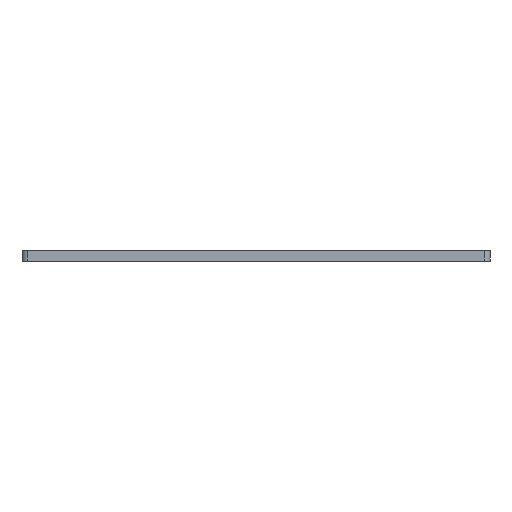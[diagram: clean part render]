
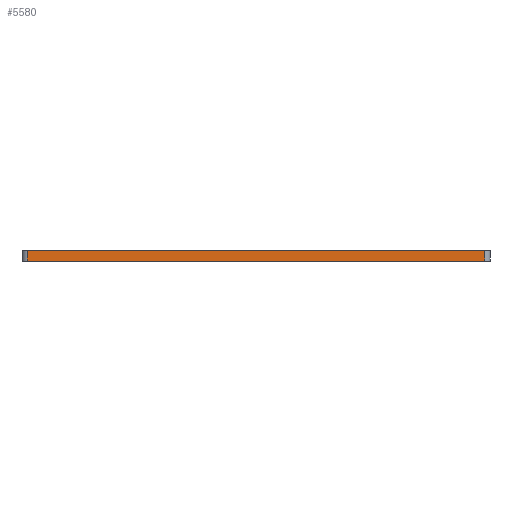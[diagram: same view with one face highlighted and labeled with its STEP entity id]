
A CAD part, top view. The second image highlights one B-rep face of the part: STEP entity #5580.
In plain terms, the highlighted planar face has unit normal (0, 0, 1).
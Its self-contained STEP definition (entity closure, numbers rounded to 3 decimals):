
#350 = DIRECTION ( 'NONE',  ( 0., -1., 0. ) ) ;
#639 = CARTESIAN_POINT ( 'NONE',  ( 253., -4.4, 128.5 ) ) ;
#1836 = VERTEX_POINT ( 'NONE', #7362 ) ;
#2193 = CARTESIAN_POINT ( 'NONE',  ( 253., 1.6, 128.5 ) ) ;
#2201 = ORIENTED_EDGE ( 'NONE', *, *, #4235, .F. ) ;
#2450 = DIRECTION ( 'NONE',  ( -1., 0., 0. ) ) ;
#2463 = EDGE_CURVE ( 'NONE', #1836, #4658, #8356, .T. ) ;
#2484 = CARTESIAN_POINT ( 'NONE',  ( 253., 1.6, 128.5 ) ) ;
#2561 = FACE_OUTER_BOUND ( 'NONE', #6196, .T. ) ;
#3219 = VECTOR ( 'NONE', #10401, 1000. ) ;
#3406 = EDGE_CURVE ( 'NONE', #7903, #4658, #6611, .T. ) ;
#3932 = LINE ( 'NONE', #2193, #10013 ) ;
#4066 = CARTESIAN_POINT ( 'NONE',  ( 3., 1.6, 128.5 ) ) ;
#4235 = EDGE_CURVE ( 'NONE', #10648, #1836, #3932, .T. ) ;
#4239 = VECTOR ( 'NONE', #4959, 1000. ) ;
#4520 = VECTOR ( 'NONE', #350, 1000. ) ;
#4658 = VERTEX_POINT ( 'NONE', #7293 ) ;
#4959 = DIRECTION ( 'NONE',  ( 1., 0., 0. ) ) ;
#5326 = CARTESIAN_POINT ( 'NONE',  ( 253., 1.6, 128.5 ) ) ;
#5580 = ADVANCED_FACE ( 'NONE', ( #2561 ), #13519, .F. ) ;
#6150 = CARTESIAN_POINT ( 'NONE',  ( 253., 1.6, 128.5 ) ) ;
#6196 = EDGE_LOOP ( 'NONE', ( #14535, #6335, #2201, #10193 ) ) ;
#6248 = EDGE_CURVE ( 'NONE', #7903, #10648, #11277, .T. ) ;
#6335 = ORIENTED_EDGE ( 'NONE', *, *, #2463, .F. ) ;
#6611 = LINE ( 'NONE', #7666, #4520 ) ;
#7258 = DIRECTION ( 'NONE',  ( 0., -1., 0. ) ) ;
#7293 = CARTESIAN_POINT ( 'NONE',  ( 3., -4.4, 128.5 ) ) ;
#7362 = CARTESIAN_POINT ( 'NONE',  ( 253., -4.4, 128.5 ) ) ;
#7666 = CARTESIAN_POINT ( 'NONE',  ( 3., 1.6, 128.5 ) ) ;
#7903 = VERTEX_POINT ( 'NONE', #4066 ) ;
#8356 = LINE ( 'NONE', #639, #3219 ) ;
#10013 = VECTOR ( 'NONE', #7258, 1000. ) ;
#10193 = ORIENTED_EDGE ( 'NONE', *, *, #6248, .F. ) ;
#10401 = DIRECTION ( 'NONE',  ( -1., 0., 0. ) ) ;
#10648 = VERTEX_POINT ( 'NONE', #5326 ) ;
#11119 = DIRECTION ( 'NONE',  ( 0., 0., -1. ) ) ;
#11277 = LINE ( 'NONE', #2484, #4239 ) ;
#13055 = AXIS2_PLACEMENT_3D ( 'NONE', #6150, #11119, #2450 ) ;
#13519 = PLANE ( 'NONE',  #13055 ) ;
#14535 = ORIENTED_EDGE ( 'NONE', *, *, #3406, .T. ) ;
